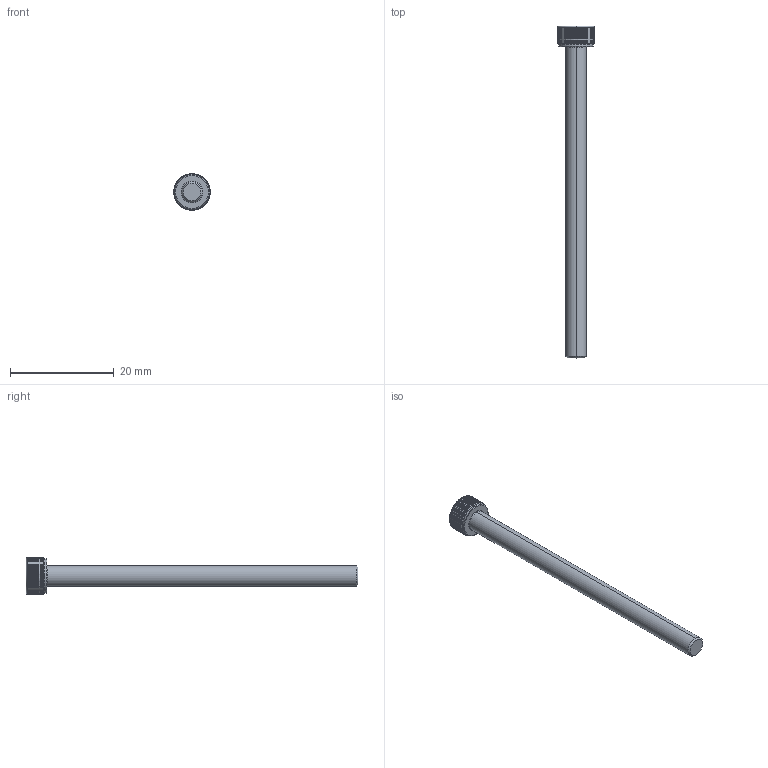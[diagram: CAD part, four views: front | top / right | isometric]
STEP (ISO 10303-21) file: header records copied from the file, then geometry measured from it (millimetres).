
FILE_DESCRIPTION (( 'STEP AP203' ), '1' );
FILE_NAME ('LGDT-304-M4x60.STEP', '2026-08-10T01:55:09', ( '' ), ( '' ), 'SwSTEP 2.0', 'SolidWorks 2020', '' );
FILE_SCHEMA (( 'CONFIG_CONTROL_DESIGN' ));
Length unit declared in the file: millimetre
Products named in the file (1): LGDT-304-M4x60
Bounding box: 7 x 64 x 7 mm (x, y, z)
Volume: 884.7 mm3; surface area: 935 mm2
Topology: 1 solids, 1 shells, 204 faces, 576 edges, 376 vertices
Faces by surface type: cylinder 175, cone 11, plane 10, torus 8
Entity records: 10019 total; most frequent: CARTESIAN_POINT 4860, ORIENTED_EDGE 1152, DIRECTION 988, EDGE_CURVE 576, AXIS2_PLACEMENT_3D 398, VERTEX_POINT 376, EDGE_LOOP 206, ADVANCED_FACE 204
